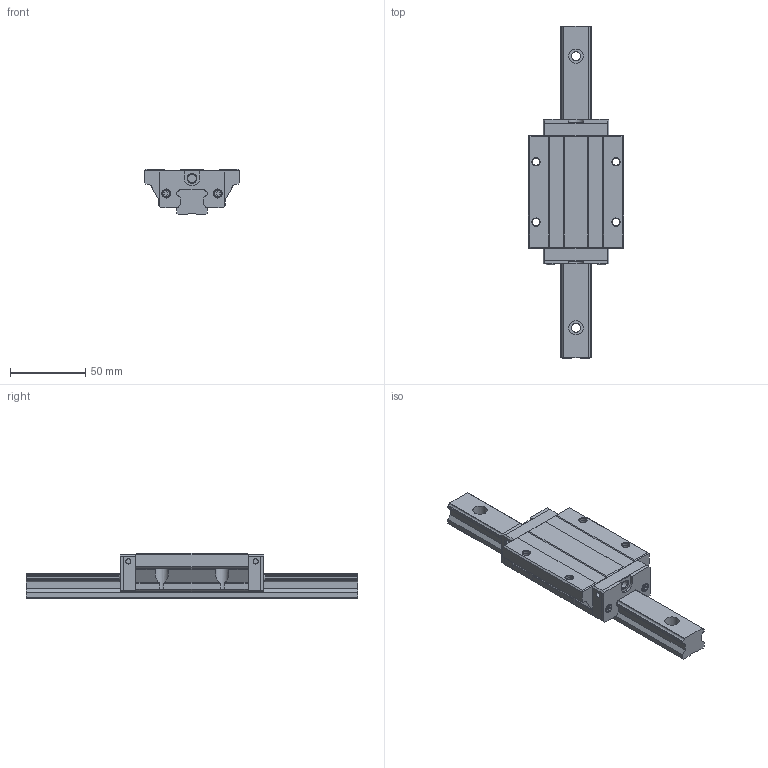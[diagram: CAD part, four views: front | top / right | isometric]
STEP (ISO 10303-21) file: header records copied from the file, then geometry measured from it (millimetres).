
FILE_DESCRIPTION( ( 'Unknown' ), '1' );
FILE_NAME( '//Sbc-server/力前/档搁包府/力前档搁/力前档(Rev.2007)/脚力前 俺惯 橇肺璃飘/2008.09.01 脚力前 SBI 15-25 俺惯 [TFT]/墨呕肺弊/3D 墨呕肺弊/SBI 20/STP/SBI 20 FLL.stp', 'Unknown', ( 'Unknown' ), ( 'Unknown' ), 'XStep 1.0', 'Unknown', ' ' );
FILE_SCHEMA( ( 'automotive_design' ) );
Length unit declared in the file: millimetre
Products named in the file (7): Assem1; 20-RAIL; SBI 20 FLL
Bounding box: 63 x 220 x 30 mm (x, y, z)
Volume: 307452 mm3; surface area: 92796.6 mm2
Topology: 12 solids, 12 shells, 776 faces, 2046 edges, 1356 vertices
Faces by surface type: plane 570, cylinder 160, extrusion 30, cone 8, torus 8
Full cylindrical faces by diameter (mm): 3.5 x24, 4.917 x16, 5.5 x8, 5.7 x4, 6 x16, 6.5 x4, 9.5 x8
Entity records: 12789 total; most frequent: CARTESIAN_POINT 2886, ORIENTED_EDGE 1922, DIRECTION 1758, EDGE_CURVE 961, VECTOR 678, VERTEX_POINT 666, LINE 663, AXIS2_PLACEMENT_3D 540
